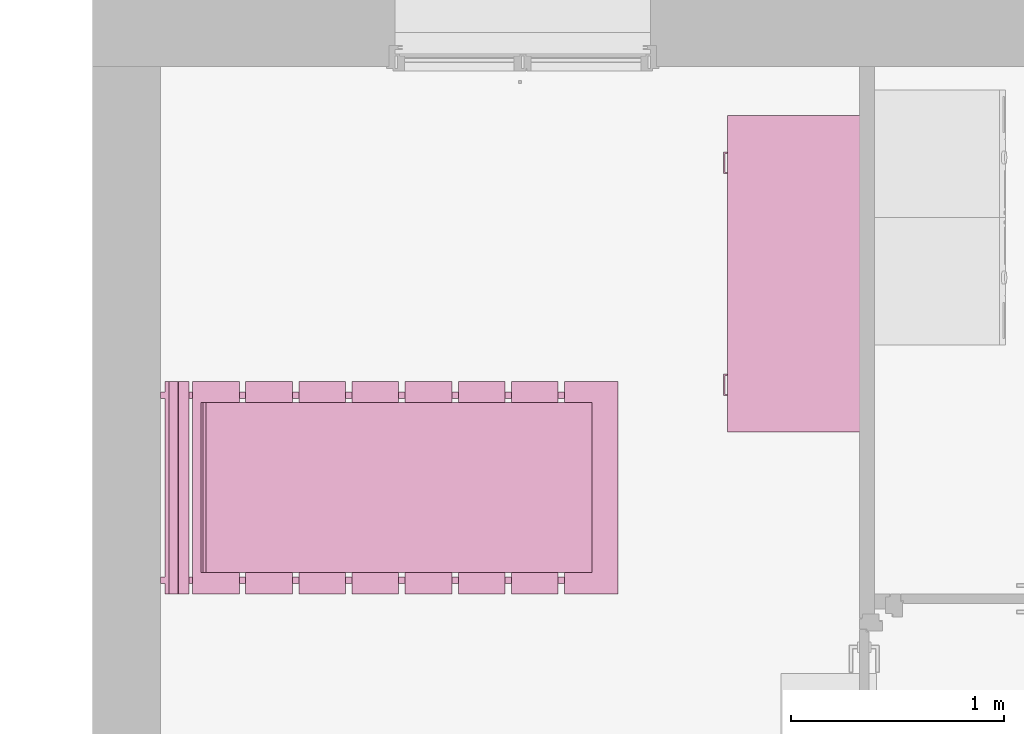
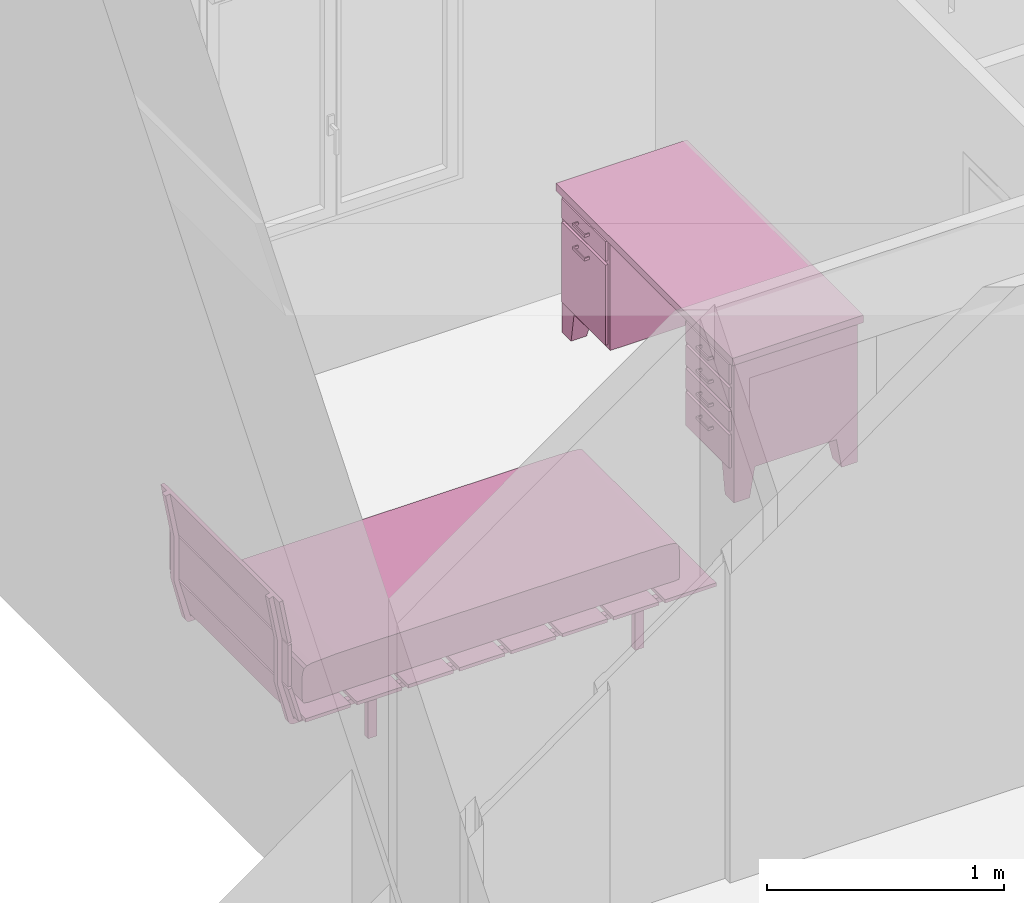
# One storey, part 59 of 61: 2 furnishings.
"""IFC2X3 building model written with IfcOpenShell, lengths in metres."""

from ifc_helpers import new_model, entity, si_unit, converted_unit, derived_unit, direction, frame, frame_2d, origin, origin_2d_with_axis, place, context, subcontext, project, spatial, polyline, circle_curve, parameter, trimmed, segment, composite_curve, rectangle, outline, extrude, faceted_brep, source, transform, mapped, material, material_list, type_object, type_shapes, element, save


model = new_model("IFC2X3")

# Units and contexts
model_context = context("Model", 3, precision=1e-05, world=origin(), true_north=direction((6.12303176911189e-17, 1.0)))
body_context = subcontext(model_context, "Body", "Model", "MODEL_VIEW")
ifc_project = project(units=[si_unit("LENGTHUNIT", "METRE"), si_unit("AREAUNIT", "SQUARE_METRE"), si_unit("VOLUMEUNIT", "CUBIC_METRE"), converted_unit("PLANEANGLEUNIT", "DEGREE", entity("IfcRatioMeasure", 0.0174532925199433), si_unit("PLANEANGLEUNIT", "RADIAN"), dimensions=[0, 0, 0, 0, 0, 0, 0]), si_unit("MASSUNIT", "GRAM", prefix="KILO"), derived_unit("MASSDENSITYUNIT", [(si_unit("MASSUNIT", "GRAM", prefix="KILO"), 1), (si_unit("LENGTHUNIT", "METRE"), -3)]), si_unit("TIMEUNIT", "SECOND"), si_unit("FREQUENCYUNIT", "HERTZ"), si_unit("THERMODYNAMICTEMPERATUREUNIT", "DEGREE_CELSIUS"), derived_unit("THERMALTRANSMITTANCEUNIT", [(si_unit("MASSUNIT", "GRAM", prefix="KILO"), 1), (si_unit("THERMODYNAMICTEMPERATUREUNIT", "KELVIN"), -1), (si_unit("TIMEUNIT", "SECOND"), -3)]), derived_unit("VOLUMETRICFLOWRATEUNIT", [(si_unit("LENGTHUNIT", "METRE"), 3), (si_unit("TIMEUNIT", "SECOND"), -1)]), si_unit("ELECTRICCURRENTUNIT", "AMPERE"), si_unit("ELECTRICVOLTAGEUNIT", "VOLT"), si_unit("POWERUNIT", "WATT"), si_unit("FORCEUNIT", "NEWTON", prefix="KILO"), si_unit("ILLUMINANCEUNIT", "LUX"), si_unit("LUMINOUSFLUXUNIT", "LUMEN"), si_unit("LUMINOUSINTENSITYUNIT", "CANDELA"), derived_unit("USERDEFINED", [(si_unit("MASSUNIT", "GRAM", prefix="KILO"), -1), (si_unit("LENGTHUNIT", "METRE"), -2), (si_unit("TIMEUNIT", "SECOND"), 3), (si_unit("LUMINOUSFLUXUNIT", "LUMEN"), 1)]), derived_unit("LINEARVELOCITYUNIT", [(si_unit("LENGTHUNIT", "METRE"), 1), (si_unit("TIMEUNIT", "SECOND"), -1)]), si_unit("PRESSUREUNIT", "PASCAL"), derived_unit("USERDEFINED", [(si_unit("LENGTHUNIT", "METRE"), -2), (si_unit("MASSUNIT", "GRAM", prefix="KILO"), 1), (si_unit("TIMEUNIT", "SECOND"), -2)])], contexts=[model_context])

# Site, building, storey
site_placement = place(None, origin())
site = spatial("IfcSite", under=ifc_project, at=site_placement, Name="Surface", CompositionType="ELEMENT")
building_placement = place(site_placement, origin())
building = spatial("IfcBuilding", under=site, at=building_placement, CompositionType="ELEMENT")
storey_placement = place(building_placement, frame((0.0, 0.0, 2.82)))
storey = spatial("IfcBuildingStorey", under=building, at=storey_placement, Name="ETAGE", CompositionType="ELEMENT", Elevation=2.82)

# Furnishings
ifc_material_1 = material(Name="Bois - Mélaminé ivoire")
ifc_material_2 = material(Name="Métal - Chrome")
ifc_material_3 = material(Name="Bois - Cerisier")
ifc_material_list_1 = material_list([ifc_material_1, ifc_material_2, ifc_material_3])
ifc_material_list_2 = material_list([ifc_material_1, ifc_material_2, ifc_material_3])
furniture_type_1 = type_object("IfcFurnitureType", Name="1525 mm x 600 mm", material=ifc_material_list_2)
shared_shape_1 = source(origin(), body_context, "Body", "Brep", [
    faceted_brep([(1.06265, 0.599999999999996, 0.704850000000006), (1.06265, 0.599999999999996, 0.603250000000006), (1.43095, 0.599999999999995, 0.603250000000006), (1.43095, 0.599999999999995, 0.704850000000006), (1.06265, 0.612699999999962, 0.704850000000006), (1.06265, 0.612699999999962, 0.603250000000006), (1.43095, 0.612699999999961, 0.603250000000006), (1.43095, 0.612699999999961, 0.704850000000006)], [[[0, 1, 2, 3]], [[1, 0, 4, 5]], [[2, 1, 5, 6]], [[3, 2, 6, 7]], [[0, 3, 7, 4]], [[4, 7, 6, 5]]]),
    faceted_brep([(1.43095, 0.612699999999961, 0.584200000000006), (1.43095, 0.612699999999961, 0.17105), (1.06265, 0.612699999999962, 0.17105), (1.06265, 0.612699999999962, 0.584200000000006), (1.06265, 0.599999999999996, 0.584200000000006), (1.43095, 0.599999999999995, 0.584200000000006), (1.06265, 0.599999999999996, 0.17105), (1.43095, 0.599999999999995, 0.17105)], [[[0, 1, 2, 3]], [[4, 5, 0, 3]], [[6, 4, 3, 2]], [[7, 6, 2, 1]], [[5, 7, 1, 0]], [[5, 4, 6, 7]]]),
    faceted_brep([(0.38735, 0.6, 0.70485), (0.01905, 0.6, 0.70485), (0.01905, 0.6, 0.60285), (0.38735, 0.6, 0.60285), (0.38735, 0.612700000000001, 0.70485), (0.01905, 0.612700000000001, 0.70485), (0.01905, 0.612700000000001, 0.60285), (0.38735, 0.612700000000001, 0.60285)], [[[0, 1, 2, 3]], [[1, 0, 4, 5]], [[2, 1, 5, 6]], [[3, 2, 6, 7]], [[0, 3, 7, 4]], [[4, 7, 6, 5]]]),
    faceted_brep([(0.01905, 0.612700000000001, 0.5838), (0.38735, 0.612700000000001, 0.5838), (0.38735, 0.612700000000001, 0.4822), (0.01905, 0.612700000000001, 0.4822), (0.01905, 0.6, 0.4822), (0.01905, 0.6, 0.5838), (0.38735, 0.6, 0.4822), (0.38735, 0.6, 0.5838)], [[[0, 1, 2, 3]], [[4, 5, 0, 3]], [[6, 4, 3, 2]], [[7, 6, 2, 1]], [[5, 7, 1, 0]], [[5, 4, 6, 7]]]),
    faceted_brep([(0.01905, 0.6, 0.17105), (0.01905, 0.6, 0.3425), (0.01905, 0.612700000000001, 0.3425), (0.01905, 0.612700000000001, 0.17105), (0.38735, 0.6, 0.17105), (0.38735, 0.612700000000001, 0.17105), (0.38735, 0.6, 0.3425), (0.38735, 0.612700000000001, 0.3425)], [[[0, 1, 2, 3]], [[4, 0, 3, 5]], [[6, 4, 5, 7]], [[1, 6, 7, 2]], [[2, 7, 5, 3]], [[1, 0, 4, 6]]]),
    faceted_brep([(0.01905, 0.6, 0.36155), (0.01905, 0.6, 0.46315), (0.01905, 0.612700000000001, 0.46315), (0.01905, 0.612700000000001, 0.36155), (0.38735, 0.6, 0.36155), (0.38735, 0.612700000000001, 0.36155), (0.38735, 0.6, 0.46315), (0.38735, 0.612700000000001, 0.46315)], [[[0, 1, 2, 3]], [[4, 0, 3, 5]], [[6, 4, 5, 7]], [[1, 6, 7, 2]], [[2, 7, 5, 3]], [[1, 0, 4, 6]]]),
    faceted_brep([(1.34839999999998, 0.6, 0.152), (1.34839999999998, 0.498399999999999, 0.152), (1.44999999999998, 0.498399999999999, 0.152), (1.44999999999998, 0.6, 0.152), (1.37379999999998, 0.6, 0.0), (1.44999999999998, 0.6, 0.0), (1.44999999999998, 0.5238, 0.0), (1.37379999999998, 0.5238, 0.0)], [[[0, 1, 2, 3]], [[4, 5, 6, 7]], [[4, 7, 1, 0]], [[7, 6, 2, 1]], [[6, 5, 3, 2]], [[5, 4, 0, 3]]]),
    faceted_brep([(1.3484, 0.0, 0.152), (1.45, 0.0, 0.152), (1.45, 0.1016, 0.152), (1.3484, 0.1016, 0.152), (1.3738, 0.0, 0.0), (1.3738, 0.0761999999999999, 0.0), (1.45, 0.0761999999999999, 0.0), (1.45, 0.0, 0.0)], [[[0, 1, 2, 3]], [[4, 5, 6, 7]], [[4, 7, 1, 0]], [[7, 6, 2, 1]], [[6, 5, 3, 2]], [[5, 4, 0, 3]]]),
    faceted_brep([(0.1016, 0.0, 0.152), (0.1016, 0.1016, 0.152), (0.0, 0.1016, 0.152), (0.0, 0.0, 0.152), (0.0762, 0.0, 0.0), (0.0, 0.0, 0.0), (0.0, 0.0761999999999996, 0.0), (0.0762, 0.0761999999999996, 0.0)], [[[0, 1, 2, 3]], [[4, 5, 6, 7]], [[4, 7, 1, 0]], [[7, 6, 2, 1]], [[6, 5, 3, 2]], [[5, 4, 0, 3]]]),
    faceted_brep([(0.1016, 0.600000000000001, 0.152), (0.0, 0.600000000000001, 0.152), (0.0, 0.498400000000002, 0.152), (0.1016, 0.498400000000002, 0.152), (0.0761999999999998, 0.600000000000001, 0.0), (0.0761999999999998, 0.523800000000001, 0.0), (0.0, 0.523800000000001, 0.0), (0.0, 0.600000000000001, 0.0)], [[[0, 1, 2, 3]], [[4, 5, 6, 7]], [[4, 7, 1, 0]], [[7, 6, 2, 1]], [[6, 5, 3, 2]], [[5, 4, 0, 3]]]),
    faceted_brep([(0.4064, 0.6, 0.723900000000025), (0.0, 0.6, 0.723900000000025), (0.0, 0.0, 0.723900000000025), (1.45, 0.0, 0.723900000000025), (1.45, 0.6, 0.723900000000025), (1.04360000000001, 0.6, 0.723900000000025), (1.04360000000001, 0.0508000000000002, 0.723900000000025), (0.4064, 0.0508000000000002, 0.723900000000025), (0.4064, 0.6, 0.152), (0.4064, 0.0508000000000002, 0.152), (1.04360000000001, 0.0508000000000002, 0.152), (1.04360000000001, 0.6, 0.152), (1.45, 0.6, 0.152), (1.45, 0.0, 0.152), (0.0, 0.0, 0.152), (0.0, 0.6, 0.152)], [[[0, 1, 2, 3, 4, 5, 6, 7]], [[8, 9, 10, 11, 12, 13, 14, 15]], [[1, 0, 8, 15]], [[2, 1, 15, 14]], [[3, 2, 14, 13]], [[4, 3, 13, 12]], [[5, 4, 12, 11]], [[6, 5, 11, 10]], [[7, 6, 10, 9]], [[0, 7, 9, 8]]]),
    faceted_brep([(1.46905000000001, 0.619049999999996, 0.761999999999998), (-0.0190499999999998, 0.619049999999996, 0.761999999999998), (-0.0190499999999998, -0.0190500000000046, 0.761999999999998), (1.46905000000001, -0.0190500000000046, 0.761999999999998), (1.46905000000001, 0.619049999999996, 0.723900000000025), (1.46905000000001, -0.0190500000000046, 0.723900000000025), (-0.0190499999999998, -0.0190500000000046, 0.723900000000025), (-0.0190499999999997, 0.619049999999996, 0.723900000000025)], [[[0, 1, 2, 3]], [[4, 5, 6, 7]], [[1, 0, 4, 7]], [[2, 1, 7, 6]], [[3, 2, 6, 5]], [[0, 3, 5, 4]]]),
    faceted_brep([(1.29124999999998, 0.612699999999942, 0.546100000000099), (1.29124999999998, 0.612699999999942, 0.533400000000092), (1.29759999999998, 0.612699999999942, 0.533400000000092), (1.29759999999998, 0.612699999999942, 0.546100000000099), (1.29124999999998, 0.631749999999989, 0.546100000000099), (1.29124999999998, 0.631749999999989, 0.533400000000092), (1.29759999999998, 0.638099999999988, 0.533400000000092), (1.29759999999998, 0.638099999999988, 0.546100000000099), (1.20234999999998, 0.631749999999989, 0.546100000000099), (1.20234999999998, 0.631749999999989, 0.533400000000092), (1.19599999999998, 0.638099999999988, 0.533400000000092), (1.19599999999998, 0.638099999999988, 0.546100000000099), (1.20234999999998, 0.612699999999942, 0.546100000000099), (1.20234999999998, 0.612699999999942, 0.533400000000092), (1.19599999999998, 0.612699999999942, 0.533400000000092), (1.19599999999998, 0.612699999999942, 0.546100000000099)], [[[0, 1, 2, 3]], [[1, 0, 4, 5]], [[2, 1, 5, 6]], [[3, 2, 6, 7]], [[0, 3, 7, 4]], [[5, 4, 8, 9]], [[6, 5, 9, 10]], [[7, 6, 10, 11]], [[4, 7, 11, 8]], [[9, 8, 12, 13]], [[10, 9, 13, 14]], [[11, 10, 14, 15]], [[8, 11, 15, 12]], [[12, 15, 14, 13]]]),
    faceted_brep([(1.29124999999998, 0.612699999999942, 0.654050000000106), (1.29124999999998, 0.612699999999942, 0.666750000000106), (1.29124999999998, 0.631749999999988, 0.666750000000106), (1.29124999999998, 0.631749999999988, 0.654050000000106), (1.29759999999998, 0.612699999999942, 0.654050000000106), (1.29759999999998, 0.638099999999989, 0.654050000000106), (1.29759999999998, 0.612699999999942, 0.666750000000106), (1.29759999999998, 0.638099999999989, 0.666750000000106), (1.20234999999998, 0.631749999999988, 0.666750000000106), (1.20234999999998, 0.631749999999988, 0.654050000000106), (1.19599999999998, 0.638099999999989, 0.654050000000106), (1.19599999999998, 0.638099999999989, 0.666750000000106), (1.20234999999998, 0.612699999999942, 0.666750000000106), (1.19599999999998, 0.612699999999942, 0.666750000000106), (1.19599999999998, 0.612699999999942, 0.654050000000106), (1.20234999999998, 0.612699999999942, 0.654050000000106)], [[[0, 1, 2, 3]], [[4, 0, 3, 5]], [[6, 4, 5, 7]], [[1, 6, 7, 2]], [[3, 2, 8, 9]], [[5, 3, 9, 10]], [[7, 5, 10, 11]], [[2, 7, 11, 8]], [[12, 13, 14, 15]], [[9, 8, 12, 15]], [[10, 9, 15, 14]], [[11, 10, 14, 13]], [[8, 11, 13, 12]], [[1, 0, 4, 6]]]),
    faceted_brep([(0.15875, 0.612699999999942, 0.3048), (0.1524, 0.612699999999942, 0.3048), (0.1524, 0.612699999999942, 0.2921), (0.15875, 0.612699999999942, 0.2921), (0.15875, 0.631749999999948, 0.3048), (0.1524, 0.638099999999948, 0.3048), (0.1524, 0.638099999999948, 0.2921), (0.15875, 0.631749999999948, 0.2921), (0.24765, 0.631749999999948, 0.3048), (0.254, 0.638099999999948, 0.3048), (0.254, 0.638099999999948, 0.2921), (0.24765, 0.631749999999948, 0.2921), (0.24765, 0.612699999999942, 0.3048), (0.254, 0.612699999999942, 0.3048), (0.254, 0.612699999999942, 0.2921), (0.24765, 0.612699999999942, 0.2921)], [[[0, 1, 2, 3]], [[1, 0, 4, 5]], [[2, 1, 5, 6]], [[3, 2, 6, 7]], [[0, 3, 7, 4]], [[5, 4, 8, 9]], [[6, 5, 9, 10]], [[7, 6, 10, 11]], [[4, 7, 11, 8]], [[9, 8, 12, 13]], [[10, 9, 13, 14]], [[11, 10, 14, 15]], [[8, 11, 15, 12]], [[12, 15, 14, 13]]]),
    faceted_brep([(0.1524, 0.612699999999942, 0.425450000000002), (0.15875, 0.612699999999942, 0.425450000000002), (0.15875, 0.631749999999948, 0.425450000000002), (0.1524, 0.638099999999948, 0.425450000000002), (0.1524, 0.612699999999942, 0.412750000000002), (0.1524, 0.638099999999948, 0.412750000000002), (0.15875, 0.612699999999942, 0.412750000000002), (0.15875, 0.631749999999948, 0.412750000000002), (0.24765, 0.631749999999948, 0.425450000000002), (0.254, 0.638099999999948, 0.425450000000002), (0.254, 0.638099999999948, 0.412750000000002), (0.24765, 0.631749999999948, 0.412750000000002), (0.24765, 0.612699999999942, 0.425450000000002), (0.254, 0.612699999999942, 0.425450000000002), (0.254, 0.612699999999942, 0.412750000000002), (0.24765, 0.612699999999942, 0.412750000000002)], [[[0, 1, 2, 3]], [[4, 0, 3, 5]], [[6, 4, 5, 7]], [[1, 6, 7, 2]], [[3, 2, 8, 9]], [[5, 3, 9, 10]], [[7, 5, 10, 11]], [[2, 7, 11, 8]], [[9, 8, 12, 13]], [[10, 9, 13, 14]], [[11, 10, 14, 15]], [[8, 11, 15, 12]], [[12, 15, 14, 13]], [[1, 0, 4, 6]]]),
    faceted_brep([(0.1524, 0.612699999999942, 0.5461), (0.15875, 0.612699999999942, 0.5461), (0.15875, 0.631749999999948, 0.5461), (0.1524, 0.638099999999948, 0.5461), (0.1524, 0.612699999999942, 0.5334), (0.1524, 0.638099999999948, 0.5334), (0.15875, 0.612699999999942, 0.5334), (0.15875, 0.631749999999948, 0.5334), (0.24765, 0.631749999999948, 0.5461), (0.254, 0.638099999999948, 0.5461), (0.254, 0.638099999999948, 0.5334), (0.24765, 0.631749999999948, 0.5334), (0.24765, 0.612699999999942, 0.5461), (0.254, 0.612699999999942, 0.5461), (0.254, 0.612699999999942, 0.5334), (0.24765, 0.612699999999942, 0.5334)], [[[0, 1, 2, 3]], [[4, 0, 3, 5]], [[6, 4, 5, 7]], [[1, 6, 7, 2]], [[3, 2, 8, 9]], [[5, 3, 9, 10]], [[7, 5, 10, 11]], [[2, 7, 11, 8]], [[9, 8, 12, 13]], [[10, 9, 13, 14]], [[11, 10, 14, 15]], [[8, 11, 15, 12]], [[12, 15, 14, 13]], [[1, 0, 4, 6]]]),
    faceted_brep([(0.1524, 0.612699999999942, 0.666750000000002), (0.15875, 0.612699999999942, 0.666750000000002), (0.15875, 0.631749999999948, 0.666750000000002), (0.1524, 0.638099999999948, 0.666750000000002), (0.1524, 0.612699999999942, 0.654050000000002), (0.1524, 0.638099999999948, 0.654050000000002), (0.15875, 0.612699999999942, 0.654050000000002), (0.15875, 0.631749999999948, 0.654050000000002), (0.24765, 0.631749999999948, 0.666750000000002), (0.254, 0.638099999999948, 0.666750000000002), (0.254, 0.638099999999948, 0.654050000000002), (0.24765, 0.631749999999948, 0.654050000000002), (0.24765, 0.612699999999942, 0.666750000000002), (0.24765, 0.612699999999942, 0.654050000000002), (0.254, 0.612699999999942, 0.654050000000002), (0.254, 0.612699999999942, 0.666750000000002)], [[[0, 1, 2, 3]], [[4, 0, 3, 5]], [[6, 4, 5, 7]], [[1, 6, 7, 2]], [[3, 2, 8, 9]], [[5, 3, 9, 10]], [[7, 5, 10, 11]], [[2, 7, 11, 8]], [[12, 13, 14, 15]], [[9, 8, 12, 15]], [[10, 9, 15, 14]], [[11, 10, 14, 13]], [[8, 11, 13, 12]], [[1, 0, 4, 6]]]),
])
type_shapes(furniture_type_1, [shared_shape_1])
furnishing_1_placement = place(storey_placement, frame((79.9089023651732, 90.4475239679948, 0.0199999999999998), z_axis=(0.0, 0.0, 1.0), x_axis=(0.0, 1.0, 0.0)))
element("IfcFurnishingElement", 1, at=furnishing_1_placement, inside=storey, type_object=furniture_type_1, material=ifc_material_list_1, Name="Bureau commun:1525 mm x 600 mm", ObjectType="Bureau commun:1525 mm x 600 mm", context=body_context, shape_type="MappedRepresentation", body=[
    mapped(shared_shape_1, transform((0.0, 0.0, 0.0), scale=1.0)),
])
ifc_material_4 = material(Name="Textile - Bleu pâle")
ifc_material_5 = material(Name="Bois - Teck")
ifc_material_6 = material(Name="Plastique - Noir")
ifc_material_list_3 = material_list([ifc_material_4, ifc_material_5, ifc_material_6])
ifc_material_list_4 = material_list([ifc_material_4, ifc_material_5, ifc_material_6])
furniture_type_2 = type_object("IfcFurnitureType", Name="1000 mm x 2000 mm 3", material=ifc_material_list_4)
shared_shape_2 = source(origin(), body_context, "Body", "SweptSolid", [
    extrude(outline(composite_curve([segment(polyline([(-0.755361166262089, -0.0846796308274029), (0.695178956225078, -0.0846796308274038)]), True, "CONTINUOUS"), segment(polyline([(0.695178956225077, -0.0846796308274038), (0.816394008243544, -0.078623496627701)]), True, "CONTINUOUS"), segment(polyline([(0.816394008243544, -0.078623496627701), (0.842657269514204, -0.0725673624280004)]), True, "CONTINUOUS"), segment(polyline([(0.842657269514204, -0.0725673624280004), (0.856799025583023, -0.0624738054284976)]), True, "CONTINUOUS"), segment(polyline([(0.856799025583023, -0.0624738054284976), (0.862859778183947, -0.0443054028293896)]), True, "CONTINUOUS"), segment(polyline([(0.862859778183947, -0.0443054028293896), (0.866900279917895, -0.0120060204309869)]), True, "CONTINUOUS"), segment(polyline([(0.866900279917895, -0.0120060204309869), (0.866900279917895, 0.0747985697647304)]), True, "CONTINUOUS"), segment(polyline([(0.866900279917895, 0.0747985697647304), (0.862859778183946, 0.105079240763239)]), True, "CONTINUOUS"), segment(polyline([(0.862859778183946, 0.105079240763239), (0.856799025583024, 0.113154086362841)]), True, "CONTINUOUS"), segment(polyline([(0.856799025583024, 0.113154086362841), (0.836596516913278, 0.117191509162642)]), True, "CONTINUOUS"), segment(polyline([(0.836596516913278, 0.117191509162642), (-0.953345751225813, 0.117191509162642)]), True, "CONTINUOUS"), segment(polyline([(-0.953345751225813, 0.117191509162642), (-0.969507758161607, 0.115172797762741)]), True, "CONTINUOUS"), segment(polyline([(-0.969507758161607, 0.115172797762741), (-0.971528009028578, 0.103060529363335)]), True, "CONTINUOUS"), segment(polyline([(-0.971528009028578, 0.103060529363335), (-0.971528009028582, -0.0160434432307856)]), True, "CONTINUOUS"), segment(trimmed(circle_curve(frame_2d((-0.76779044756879, -0.0160434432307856), x_axis=(-1.0, 0.0)), 0.203737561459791), [parameter(360.0)], [parameter(11.4298384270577)], True, "PARAMETER"), True, "CONTINUOUS"), segment(trimmed(circle_curve(frame_2d((-0.944467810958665, -0.0517636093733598), x_axis=(-1.0, 0.0)), 0.0234854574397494), [parameter(11.4298384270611)], [parameter(62.3518913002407)], True, "PARAMETER"), True, "CONTINUOUS"), segment(trimmed(circle_curve(frame_2d((-0.929629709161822, -0.0234388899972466), x_axis=(-1.0, 0.0)), 0.0554613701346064), [parameter(62.35189130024)], [parameter(84.2736549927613)], True, "PARAMETER"), True, "CONTINUOUS"), segment(trimmed(circle_curve(frame_2d((-0.809859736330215, 1.1709442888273), x_axis=(-1.0, 0.0)), 1.25583465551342), [parameter(84.2736549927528)], [parameter(86.5854437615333)], True, "PARAMETER"), True, "CONTINUOUS"), segment(polyline([(-0.884657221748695, -0.0826609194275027), (-0.755361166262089, -0.0846796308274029)]), True, "CONTINUOUS")], self_intersect=False)), frame((-0.4, 1.05656455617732, 0.367191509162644), z_axis=(1.0, 0.0, 0.0), x_axis=(0.0, -1.0, 0.0)), (0.0, 0.0, 1.0), 0.799999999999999),
    extrude(rectangle(XDim=1.0, YDim=0.249999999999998, at=origin_2d_with_axis()), frame((0.0, 2.02499620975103, 0.232311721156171), z_axis=(0.0, 0.0, 1.0), x_axis=(-1.0, 0.0, 0.0)), (0.0, 0.0, 1.0), 0.0176882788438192),
    extrude(outline(polyline([(-0.114793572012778, -0.00886960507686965), (0.115119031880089, -0.00886960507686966), (0.115119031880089, 0.00896042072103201), (-0.115444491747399, 0.00877878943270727), (-0.114793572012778, -0.00886960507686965)])), frame((-0.5, 0.051324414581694, 0.783374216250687), z_axis=(1.0, 0.0, 0.0), x_axis=(0.0, -0.182165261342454, 0.983267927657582)), (0.0, 0.0, 1.0), 0.999999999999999),
    extrude(rectangle(XDim=1.0, YDim=0.219999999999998, at=frame_2d((0.0, 1.38777878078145e-16), x_axis=(1.0, 0.0))), frame((0.0, 1.75999620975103, 0.232311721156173), z_axis=(0.0, 0.0, 1.0), x_axis=(-1.0, 0.0, 0.0)), (0.0, 0.0, 1.0), 0.0176882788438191),
    extrude(rectangle(XDim=1.0, YDim=0.219999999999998, at=frame_2d((0.0, -1.31838984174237e-16), x_axis=(1.0, 0.0))), frame((0.0, 1.50999620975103, 0.232311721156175), z_axis=(0.0, 0.0, 1.0), x_axis=(-1.0, 0.0, 0.0)), (0.0, 0.0, 1.0), 0.017688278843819),
    extrude(rectangle(XDim=1.0, YDim=0.219999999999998, at=frame_2d((0.0, -1.38777878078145e-16), x_axis=(1.0, 0.0))), frame((0.0, 1.25999620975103, 0.232311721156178), z_axis=(0.0, 0.0, 1.0), x_axis=(-1.0, 0.0, 0.0)), (0.0, 0.0, 1.0), 0.0176882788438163),
    extrude(rectangle(XDim=1.0, YDim=0.219999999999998, at=frame_2d((0.0, 6.93889390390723e-17), x_axis=(1.0, 0.0))), frame((0.0, 1.00999620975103, 0.232311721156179), z_axis=(0.0, 0.0, 1.0), x_axis=(-1.0, 0.0, 0.0)), (0.0, 0.0, 1.0), 0.0176882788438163),
    extrude(rectangle(XDim=1.0, YDim=0.22, at=origin_2d_with_axis()), frame((0.0, 0.759996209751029, 0.232311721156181), z_axis=(0.0, 0.0, 1.0), x_axis=(-1.0, 0.0, 0.0)), (0.0, 0.0, 1.0), 0.0176882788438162),
    extrude(rectangle(XDim=1.0, YDim=0.22, at=origin_2d_with_axis()), frame((0.0, 0.509996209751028, 0.232311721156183), z_axis=(0.0, 0.0, 1.0), x_axis=(-1.0, 0.0, 0.0)), (0.0, 0.0, 1.0), 0.0176882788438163),
    extrude(rectangle(XDim=1.0, YDim=0.22, at=origin_2d_with_axis()), frame((0.0, 0.259996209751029, 0.232311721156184), z_axis=(0.0, 0.0, 1.0), x_axis=(-1.0, 0.0, 0.0)), (0.0, 0.0, 1.0), 0.0176882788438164),
    extrude(rectangle(XDim=1.0, YDim=0.0183684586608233, at=origin_2d_with_axis()), frame((0.0, 0.0735868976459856, 0.443802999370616), z_axis=(0.0, 0.0, 1.0), x_axis=(-1.0, 0.0, 0.0)), (0.0, 0.0, 1.0), 0.214481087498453),
    extrude(outline(polyline([(-0.0941857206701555, -0.00889996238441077), (0.0936128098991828, -0.00889996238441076), (0.0943260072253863, 0.00869876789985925), (-0.0937530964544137, 0.00910115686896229), (-0.0941857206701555, -0.00889996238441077)])), frame((-0.5, 0.100341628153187, 0.340588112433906), z_axis=(1.0, 0.0, 0.0), x_axis=(0.0, -0.268983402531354, 0.96314481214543)), (0.0, 0.0, 1.0), 0.999999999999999),
    extrude(rectangle(XDim=0.03, YDim=0.0421792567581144, at=frame_2d((3.38271077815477e-17, -2.70616862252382e-16), x_axis=(1.0, 0.0))), frame((-0.434999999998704, 1.80439834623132, 0.0)), (0.0, 0.0, 1.0), 0.204645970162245),
    extrude(rectangle(XDim=0.03, YDim=0.0421792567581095, at=frame_2d((3.38271077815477e-17, -3.29597460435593e-17), x_axis=(1.0, 0.0))), frame((-0.434999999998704, 0.505017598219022, 0.0)), (0.0, 0.0, 1.0), 0.204645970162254),
    extrude(rectangle(XDim=0.03, YDim=0.0421792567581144, at=frame_2d((-3.38271077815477e-17, 0.0), x_axis=(1.0, 0.0))), frame((0.435000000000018, 1.80439834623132, 0.0), z_axis=(0.0, 0.0, 1.0), x_axis=(-1.0, 0.0, 0.0)), (0.0, 0.0, 1.0), 0.204645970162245),
    extrude(rectangle(XDim=0.03, YDim=0.0421792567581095, at=frame_2d((-3.38271077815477e-17, -3.29597460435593e-17), x_axis=(1.0, 0.0))), frame((0.435000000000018, 0.505017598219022, 0.0), z_axis=(0.0, 0.0, 1.0), x_axis=(-1.0, 0.0, 0.0)), (0.0, 0.0, 1.0), 0.204645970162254),
    extrude(outline(composite_curve([segment(polyline([(-0.499010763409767, 0.346366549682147), (-0.499569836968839, 0.324560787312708)]), True, "CONTINUOUS"), segment(polyline([(-0.499569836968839, 0.324560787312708), (-0.2642053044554, 0.324063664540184)]), True, "CONTINUOUS"), segment(polyline([(-0.2642053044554, 0.324063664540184), (-0.0414406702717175, 0.365029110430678)]), True, "CONTINUOUS"), segment(polyline([(-0.0414406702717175, 0.365029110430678), (0.170125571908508, 0.346291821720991)]), True, "CONTINUOUS"), segment(polyline([(0.170125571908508, 0.346291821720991), (0.528537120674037, -1.59768807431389)]), True, "CONTINUOUS"), segment(polyline([(0.528537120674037, -1.59768807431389), (0.549932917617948, -1.56608457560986)]), True, "CONTINUOUS"), segment(polyline([(0.549932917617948, -1.56608457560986), (0.19740578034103, 0.350911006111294)]), True, "CONTINUOUS"), segment(trimmed(circle_curve(frame_2d((0.17103903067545, 0.346062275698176), x_axis=(0.180862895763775, -0.983508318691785)), 0.0268088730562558), [parameter(90.0)], [parameter(167.367566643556)], True, "PARAMETER"), True, "CONTINUOUS"), segment(polyline([(0.172073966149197, 0.372851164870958), (-0.0455420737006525, 0.387331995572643)]), True, "CONTINUOUS"), segment(polyline([(-0.0455420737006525, 0.387331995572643), (-0.268306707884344, 0.346366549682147)]), True, "CONTINUOUS"), segment(polyline([(-0.268306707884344, 0.346366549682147), (-0.499010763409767, 0.346366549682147)]), True, "CONTINUOUS")], self_intersect=False)), frame((-0.449999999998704, 0.430906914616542, 0.462262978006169), z_axis=(-1.0, 0.0, 0.0), x_axis=(0.0, 0.180862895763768, -0.983508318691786)), (0.0, 0.0, -1.0), 0.0299999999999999),
    extrude(outline(composite_curve([segment(polyline([(-0.499010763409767, 0.346366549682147), (-0.49956983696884, 0.324560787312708)]), True, "CONTINUOUS"), segment(polyline([(-0.49956983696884, 0.324560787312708), (-0.2642053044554, 0.324063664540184)]), True, "CONTINUOUS"), segment(polyline([(-0.2642053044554, 0.324063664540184), (-0.0414406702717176, 0.365029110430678)]), True, "CONTINUOUS"), segment(polyline([(-0.0414406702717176, 0.365029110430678), (0.170125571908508, 0.346291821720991)]), True, "CONTINUOUS"), segment(polyline([(0.170125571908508, 0.346291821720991), (0.528537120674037, -1.59768807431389)]), True, "CONTINUOUS"), segment(polyline([(0.528537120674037, -1.59768807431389), (0.549932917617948, -1.56608457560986)]), True, "CONTINUOUS"), segment(polyline([(0.549932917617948, -1.56608457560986), (0.19740578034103, 0.350911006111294)]), True, "CONTINUOUS"), segment(trimmed(circle_curve(frame_2d((0.17103903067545, 0.346062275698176), x_axis=(0.180862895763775, -0.983508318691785)), 0.0268088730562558), [parameter(90.0)], [parameter(167.367566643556)], True, "PARAMETER"), True, "CONTINUOUS"), segment(polyline([(0.172073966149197, 0.372851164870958), (-0.0455420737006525, 0.387331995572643)]), True, "CONTINUOUS"), segment(polyline([(-0.0455420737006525, 0.387331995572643), (-0.268306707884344, 0.346366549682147)]), True, "CONTINUOUS"), segment(polyline([(-0.268306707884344, 0.346366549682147), (-0.499010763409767, 0.346366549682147)]), True, "CONTINUOUS")], self_intersect=False)), frame((0.420000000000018, 0.430906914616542, 0.462262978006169), z_axis=(-1.0, 0.0, 0.0), x_axis=(0.0, 0.180862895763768, -0.983508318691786)), (0.0, 0.0, -1.0), 0.0299999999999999),
])
type_shapes(furniture_type_2, [shared_shape_2])
furnishing_2_placement = place(storey_placement, frame((76.6227560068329, 90.1675239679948, 0.0199999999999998), z_axis=(0.0, 0.0, 1.0), x_axis=(0.0, -1.0, 0.0)))
element("IfcFurnishingElement", 2, at=furnishing_2_placement, inside=storey, type_object=furniture_type_2, material=ifc_material_list_3, Name="Lit à lattes:1000 mm x 2000 mm 3", ObjectType="Lit à lattes:1000 mm x 2000 mm 3", context=body_context, shape_type="MappedRepresentation", body=[
    mapped(shared_shape_2, transform((0.0, 0.0, 0.0), scale=1.0)),
])

save(model, "model.ifc")
